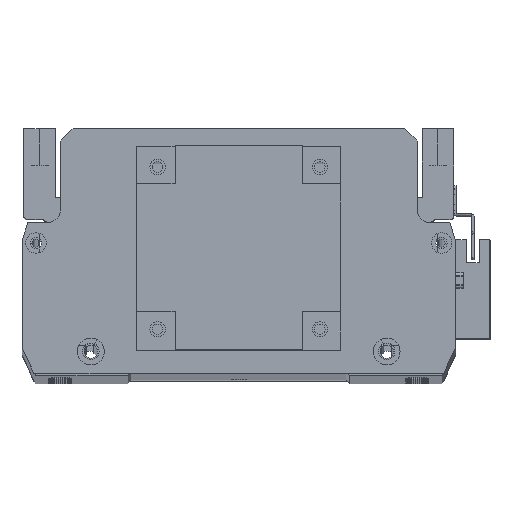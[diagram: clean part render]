
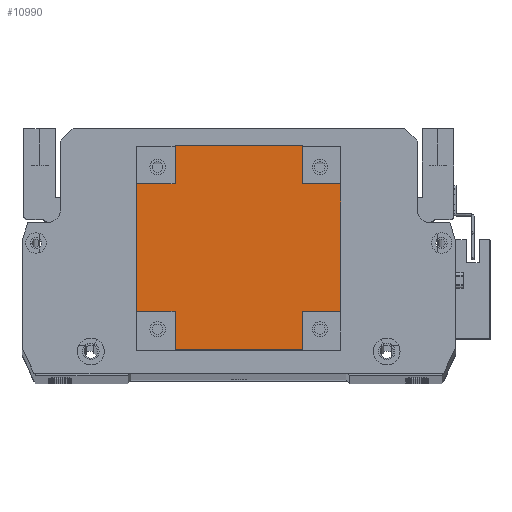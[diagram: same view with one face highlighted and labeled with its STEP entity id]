
A CAD part, top view. The second image highlights one B-rep face of the part: STEP entity #10990.
In plain terms, the highlighted planar face has unit normal (0, 0, 1).
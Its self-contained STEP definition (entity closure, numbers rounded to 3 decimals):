
#446 = CARTESIAN_POINT ( 'NONE',  ( 15., 0., 101.5 ) ) ;
#450 = CARTESIAN_POINT ( 'NONE',  ( 15., 15., 101.5 ) ) ;
#472 = VERTEX_POINT ( 'NONE', #6309 ) ;
#601 = DIRECTION ( 'NONE',  ( 0., 0., -1. ) ) ;
#748 = ORIENTED_EDGE ( 'NONE', *, *, #19516, .T. ) ;
#757 = ORIENTED_EDGE ( 'NONE', *, *, #16957, .F. ) ;
#1315 = LINE ( 'NONE', #19605, #24203 ) ;
#1398 = LINE ( 'NONE', #12071, #12821 ) ;
#1424 = LINE ( 'NONE', #14128, #14164 ) ;
#1944 = CARTESIAN_POINT ( 'NONE',  ( 80., 15., 101.5 ) ) ;
#3261 = CARTESIAN_POINT ( 'NONE',  ( 65., 65., 101.5 ) ) ;
#4720 = DIRECTION ( 'NONE',  ( 0., -1., 0. ) ) ;
#4749 = VERTEX_POINT ( 'NONE', #7602 ) ;
#5187 = VECTOR ( 'NONE', #10161, 1000. ) ;
#5514 = LINE ( 'NONE', #3261, #16526 ) ;
#6309 = CARTESIAN_POINT ( 'NONE',  ( 15., 65., 101.5 ) ) ;
#6351 = DIRECTION ( 'NONE',  ( -1., 0., 0. ) ) ;
#6640 = DIRECTION ( 'NONE',  ( -1., 0., 0. ) ) ;
#7602 = CARTESIAN_POINT ( 'NONE',  ( 65., 65., 101.5 ) ) ;
#7711 = CARTESIAN_POINT ( 'NONE',  ( 0., 65., 101.5 ) ) ;
#7933 = EDGE_CURVE ( 'NONE', #472, #16208, #1424, .T. ) ;
#7981 = EDGE_CURVE ( 'NONE', #4749, #23336, #5514, .T. ) ;
#8269 = AXIS2_PLACEMENT_3D ( 'NONE', #12087, #601, #16391 ) ;
#8280 = VECTOR ( 'NONE', #6351, 1000. ) ;
#8528 = CARTESIAN_POINT ( 'NONE',  ( 65., 0., 101.5 ) ) ;
#8913 = CARTESIAN_POINT ( 'NONE',  ( 0., 15., 101.5 ) ) ;
#8948 = VECTOR ( 'NONE', #19588, 1000. ) ;
#9001 = LINE ( 'NONE', #16500, #19913 ) ;
#9227 = FACE_OUTER_BOUND ( 'NONE', #23945, .T. ) ;
#9240 = CARTESIAN_POINT ( 'NONE',  ( 80., 15., 101.5 ) ) ;
#9321 = EDGE_CURVE ( 'NONE', #10606, #16208, #20558, .T. ) ;
#9563 = ORIENTED_EDGE ( 'NONE', *, *, #18657, .F. ) ;
#9725 = ORIENTED_EDGE ( 'NONE', *, *, #18299, .F. ) ;
#10161 = DIRECTION ( 'NONE',  ( 0., 1., 0. ) ) ;
#10436 = ORIENTED_EDGE ( 'NONE', *, *, #9321, .T. ) ;
#10582 = CARTESIAN_POINT ( 'NONE',  ( 65., 80., 101.5 ) ) ;
#10606 = VERTEX_POINT ( 'NONE', #10582 ) ;
#10974 = DIRECTION ( 'NONE',  ( 0., -1., 0. ) ) ;
#10990 = ADVANCED_FACE ( 'NONE', ( #9227 ), #24999, .F. ) ;
#11384 = VECTOR ( 'NONE', #28401, 1000. ) ;
#11660 = CARTESIAN_POINT ( 'NONE',  ( 15., 0., 101.5 ) ) ;
#12071 = CARTESIAN_POINT ( 'NONE',  ( 0., 0., 101.5 ) ) ;
#12087 = CARTESIAN_POINT ( 'NONE',  ( 0., 0., 101.5 ) ) ;
#12200 = DIRECTION ( 'NONE',  ( 1., 0., 0. ) ) ;
#12821 = VECTOR ( 'NONE', #16376, 1000. ) ;
#13154 = VERTEX_POINT ( 'NONE', #23583 ) ;
#13188 = VERTEX_POINT ( 'NONE', #25849 ) ;
#13560 = CARTESIAN_POINT ( 'NONE',  ( 0., 0., 101.5 ) ) ;
#14128 = CARTESIAN_POINT ( 'NONE',  ( 15., 80., 101.5 ) ) ;
#14164 = VECTOR ( 'NONE', #27070, 1000. ) ;
#14179 = DIRECTION ( 'NONE',  ( 0., 1., 0. ) ) ;
#14389 = CARTESIAN_POINT ( 'NONE',  ( 80., 0., 101.5 ) ) ;
#15100 = VERTEX_POINT ( 'NONE', #9240 ) ;
#15919 = EDGE_CURVE ( 'NONE', #27101, #472, #9001, .T. ) ;
#15976 = LINE ( 'NONE', #1944, #21470 ) ;
#16208 = VERTEX_POINT ( 'NONE', #17668 ) ;
#16376 = DIRECTION ( 'NONE',  ( 1., 0., 0. ) ) ;
#16391 = DIRECTION ( 'NONE',  ( -1., 0., 0. ) ) ;
#16479 = VERTEX_POINT ( 'NONE', #11660 ) ;
#16500 = CARTESIAN_POINT ( 'NONE',  ( 0., 65., 101.5 ) ) ;
#16526 = VECTOR ( 'NONE', #20963, 1000. ) ;
#16871 = ORIENTED_EDGE ( 'NONE', *, *, #19762, .T. ) ;
#16908 = EDGE_CURVE ( 'NONE', #10606, #4749, #1315, .T. ) ;
#16913 = LINE ( 'NONE', #14389, #5187 ) ;
#16957 = EDGE_CURVE ( 'NONE', #26250, #13188, #28572, .T. ) ;
#17399 = CARTESIAN_POINT ( 'NONE',  ( 65., 0., 101.5 ) ) ;
#17589 = ORIENTED_EDGE ( 'NONE', *, *, #16908, .F. ) ;
#17668 = CARTESIAN_POINT ( 'NONE',  ( 15., 80., 101.5 ) ) ;
#17685 = ORIENTED_EDGE ( 'NONE', *, *, #7981, .F. ) ;
#18299 = EDGE_CURVE ( 'NONE', #16479, #26250, #24801, .T. ) ;
#18657 = EDGE_CURVE ( 'NONE', #15100, #13154, #15976, .T. ) ;
#19114 = VECTOR ( 'NONE', #14179, 1000. ) ;
#19516 = EDGE_CURVE ( 'NONE', #27101, #13188, #28330, .T. ) ;
#19588 = DIRECTION ( 'NONE',  ( 0., -1., 0. ) ) ;
#19599 = CARTESIAN_POINT ( 'NONE',  ( 0., 80., 101.5 ) ) ;
#19605 = CARTESIAN_POINT ( 'NONE',  ( 65., 80., 101.5 ) ) ;
#19681 = EDGE_CURVE ( 'NONE', #16479, #27819, #1398, .T. ) ;
#19762 = EDGE_CURVE ( 'NONE', #15100, #23336, #16913, .T. ) ;
#19913 = VECTOR ( 'NONE', #12200, 1000. ) ;
#20558 = LINE ( 'NONE', #19599, #8280 ) ;
#20963 = DIRECTION ( 'NONE',  ( 1., 0., 0. ) ) ;
#21191 = LINE ( 'NONE', #17399, #8948 ) ;
#21470 = VECTOR ( 'NONE', #6640, 1000. ) ;
#22613 = VECTOR ( 'NONE', #4720, 1000. ) ;
#23138 = ORIENTED_EDGE ( 'NONE', *, *, #19681, .T. ) ;
#23336 = VERTEX_POINT ( 'NONE', #24711 ) ;
#23583 = CARTESIAN_POINT ( 'NONE',  ( 65., 15., 101.5 ) ) ;
#23945 = EDGE_LOOP ( 'NONE', ( #10436, #27600, #24446, #748, #757, #9725, #23138, #28309, #9563, #16871, #17685, #17589 ) ) ;
#24203 = VECTOR ( 'NONE', #10974, 1000. ) ;
#24446 = ORIENTED_EDGE ( 'NONE', *, *, #15919, .F. ) ;
#24711 = CARTESIAN_POINT ( 'NONE',  ( 80., 65., 101.5 ) ) ;
#24801 = LINE ( 'NONE', #446, #19114 ) ;
#24999 = PLANE ( 'NONE',  #8269 ) ;
#25379 = EDGE_CURVE ( 'NONE', #13154, #27819, #21191, .T. ) ;
#25849 = CARTESIAN_POINT ( 'NONE',  ( 0., 15., 101.5 ) ) ;
#26250 = VERTEX_POINT ( 'NONE', #450 ) ;
#27070 = DIRECTION ( 'NONE',  ( 0., 1., 0. ) ) ;
#27101 = VERTEX_POINT ( 'NONE', #7711 ) ;
#27600 = ORIENTED_EDGE ( 'NONE', *, *, #7933, .F. ) ;
#27819 = VERTEX_POINT ( 'NONE', #8528 ) ;
#28309 = ORIENTED_EDGE ( 'NONE', *, *, #25379, .F. ) ;
#28330 = LINE ( 'NONE', #13560, #22613 ) ;
#28401 = DIRECTION ( 'NONE',  ( -1., 0., 0. ) ) ;
#28572 = LINE ( 'NONE', #8913, #11384 ) ;
